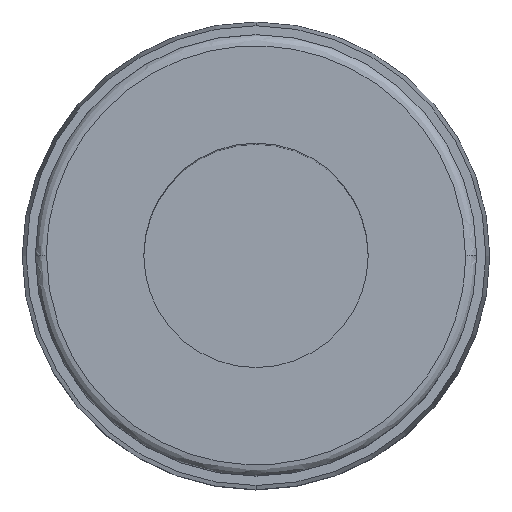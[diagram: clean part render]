
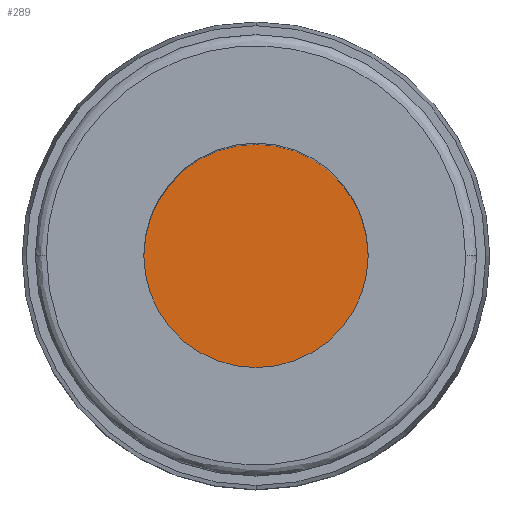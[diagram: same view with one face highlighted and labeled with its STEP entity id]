
A CAD part, top view. The second image highlights one B-rep face of the part: STEP entity #289.
In plain terms, the highlighted planar face has unit normal (0, 0, 1).
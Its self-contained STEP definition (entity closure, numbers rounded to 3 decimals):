
#57 = PLANE ( 'NONE',  #250 ) ;
#131 = CARTESIAN_POINT ( 'NONE',  ( 0., 0., 21.8 ) ) ;
#166 = DIRECTION ( 'NONE',  ( 0., 0., 1. ) ) ;
#173 = DIRECTION ( 'NONE',  ( 1., 0., 0. ) ) ;
#250 = AXIS2_PLACEMENT_3D ( 'NONE', #1460, #1515, #451 ) ;
#289 = ADVANCED_FACE ( '7', ( #1031 ), #57, .T. ) ;
#321 = ORIENTED_EDGE ( 'NONE', *, *, #1384, .T. ) ;
#410 = CARTESIAN_POINT ( 'NONE',  ( 0., 0., 21.8 ) ) ;
#426 = DIRECTION ( 'NONE',  ( 0., 0., 1. ) ) ;
#451 = DIRECTION ( 'NONE',  ( 1., 0., 0. ) ) ;
#636 = CIRCLE ( 'NONE', #942, 3. ) ;
#793 = EDGE_CURVE ( 'NONE', #1075, #1615, #636, .T. ) ;
#942 = AXIS2_PLACEMENT_3D ( 'NONE', #131, #166, #173 ) ;
#978 = DIRECTION ( 'NONE',  ( 1., 0., 0. ) ) ;
#1031 = FACE_OUTER_BOUND ( 'NONE', #1376, .T. ) ;
#1075 = VERTEX_POINT ( 'NONE', #1173 ) ;
#1102 = ORIENTED_EDGE ( 'NONE', *, *, #793, .T. ) ;
#1118 = CARTESIAN_POINT ( 'NONE',  ( 3., 0., 21.8 ) ) ;
#1173 = CARTESIAN_POINT ( 'NONE',  ( -3., 0., 21.8 ) ) ;
#1208 = CIRCLE ( 'NONE', #1359, 3. ) ;
#1359 = AXIS2_PLACEMENT_3D ( 'NONE', #410, #426, #978 ) ;
#1376 = EDGE_LOOP ( 'NONE', ( #321, #1102 ) ) ;
#1384 = EDGE_CURVE ( 'NONE', #1615, #1075, #1208, .T. ) ;
#1460 = CARTESIAN_POINT ( 'NONE',  ( 3.5, -3.5, 21.8 ) ) ;
#1515 = DIRECTION ( 'NONE',  ( 0., 0., 1. ) ) ;
#1615 = VERTEX_POINT ( 'NONE', #1118 ) ;
